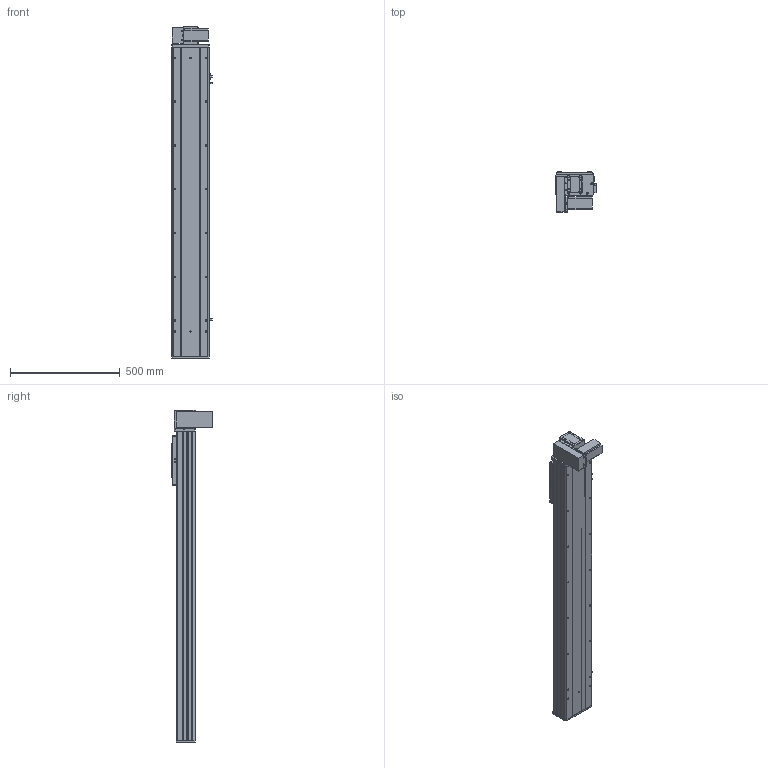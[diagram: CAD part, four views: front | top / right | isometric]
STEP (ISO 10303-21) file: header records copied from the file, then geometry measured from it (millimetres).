
FILE_DESCRIPTION (( 'STEP AP203' ), '1' );
FILE_NAME ('Y170CB-D105-S1100-BM-P400W.STEP', '2020-02-20T06:27:47', ( '微软用户' ), ( '微软中国' ), 'SwSTEP 2.0', 'SolidWorks 2017', '' );
FILE_SCHEMA (( 'CONFIG_CONTROL_DESIGN' ));
Length unit declared in the file: millimetre
Products named in the file (18): 70CB-掛极-; Y170CB-陔俋离換覜結え---; --70CB --喘謫眊楊擘啣-; 17B-耜蚾蟀諉啣----; Y1埴倛裔; 70CB-耜裔啣-; 00B-俋欶BM--163; 70C--詩湍揤踡え-; 70B喘謫眊----; 70CB--耜裔; Y170CB-D105-S1100-BM-P400W; 70C-雄赽釱-奻-; B-源倛裔啣; 0C--雄赽釱俋欶-170; 0B-萇儂楊擘啣; 70CB-詩湍--; san松下电机400不带刹车----; Y100-135俋离換覜ん--
Assembly tree (21 placements, depth 2):
  Y170CB-D105-S1100-BM-P400W
    B-源倛裔啣
    0B-萇儂楊擘啣
    san松下电机400不带刹车----
    70CB-掛极-
    --70CB --喘謫眊楊擘啣-
    70CB-耜裔啣-  x2
    70C--詩湍揤踡え-  x2
    70CB--耜裔
    70C-雄赽釱-奻-
    0C--雄赽釱俋欶-170
    70CB-詩湍--
    Y100-135俋离換覜ん--  x3
    Y170CB-陔俋离換覜結え---
    Y1埴倛裔
    17B-耜蚾蟀諉啣----
    00B-俋欶BM--163
    70B喘謫眊----
Bounding box: 183.5 x 184 x 1516 mm (x, y, z)
Volume: 6932647.9 mm3; surface area: 2487367 mm2
Topology: 21 solids, 21 shells, 1015 faces, 2717 edges, 1802 vertices
Faces by surface type: cylinder 529, plane 462, cone 24
Entity records: 32328 total; most frequent: CARTESIAN_POINT 5916, DIRECTION 5258, ORIENTED_EDGE 4916, EDGE_CURVE 2458, AXIS2_PLACEMENT_3D 1928, VERTEX_POINT 1632, LINE 1402, VECTOR 1402
